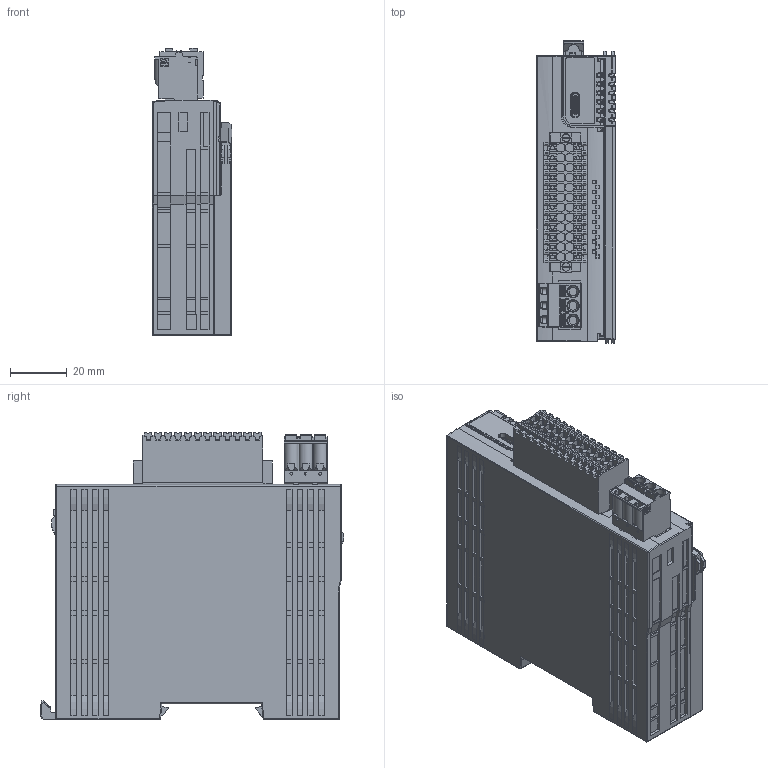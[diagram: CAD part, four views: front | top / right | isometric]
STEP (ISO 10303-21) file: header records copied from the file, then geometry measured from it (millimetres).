
FILE_DESCRIPTION((''),'2;1');
FILE_NAME('EASY301_ASM','2022-05-06T',('10004338'),(''),'CREO PARAMETRIC BY PTC INC, 2015290','CREO PARAMETRIC BY PTC INC, 2015290','');
FILE_SCHEMA(('AUTOMOTIVE_DESIGN { 1 0 10303 214 1 1 1 1 }'));
Products named in the file (3): EASY_301; 20212484; EASY301_ASM
Assembly tree (2 placements, depth 2):
  EASY301_ASM
    EASY_301
    20212484
Bounding box: 28 x 106.94 x 101.36 mm (x, y, z)
Volume: 214525.8 mm3; surface area: 64329.1 mm2
Topology: 2 solids, 4 shells, 5915 faces, 16298 edges, 10448 vertices
Faces by surface type: plane 3947, cylinder 1369, bspline 375, torus 124, extrusion 50, sphere 27, cone 23
Entity records: 241917 total; most frequent: CARTESIAN_POINT 94266, ORIENTED_EDGE 32548, DIRECTION 27848, EDGE_CURVE 16274, VECTOR 11890, LINE 11840, VERTEX_POINT 10448, AXIS2_PLACEMENT_3D 7979
